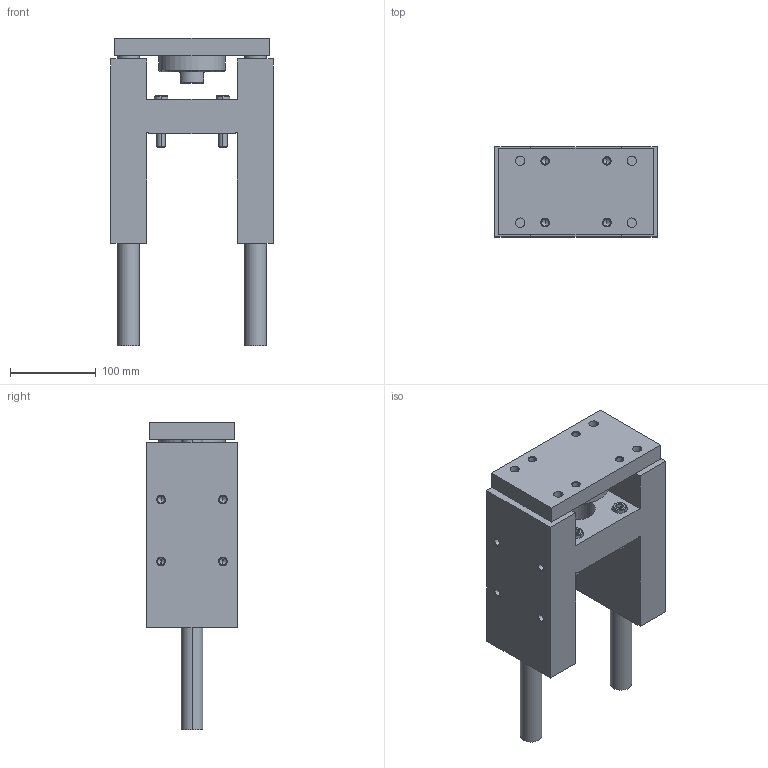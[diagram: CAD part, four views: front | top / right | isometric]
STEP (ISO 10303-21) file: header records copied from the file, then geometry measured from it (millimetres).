
FILE_DESCRIPTION (( 'STEP AP203' ), '1' );
FILE_NAME ('GB80-100.STEP', '2020-04-24T13:28:23', ( '' ), ( '' ), 'SwSTEP 2.0', 'SolidWorks 2019', '' );
FILE_SCHEMA (( 'CONFIG_CONTROL_DESIGN' ));
Length unit declared in the file: millimetre
Products named in the file (1): GB80-100
Bounding box: 189 x 105 x 358 mm (x, y, z)
Volume: 2794610.3 mm3; surface area: 335379.6 mm2
Topology: 6 solids, 6 shells, 329 faces, 728 edges, 412 vertices
Faces by surface type: cone 134, cylinder 98, plane 97
Entity records: 9631 total; most frequent: CARTESIAN_POINT 2242, DIRECTION 1662, ORIENTED_EDGE 1392, EDGE_CURVE 696, AXIS2_PLACEMENT_3D 664, VERTEX_POINT 412, EDGE_LOOP 392, CIRCLE 334
